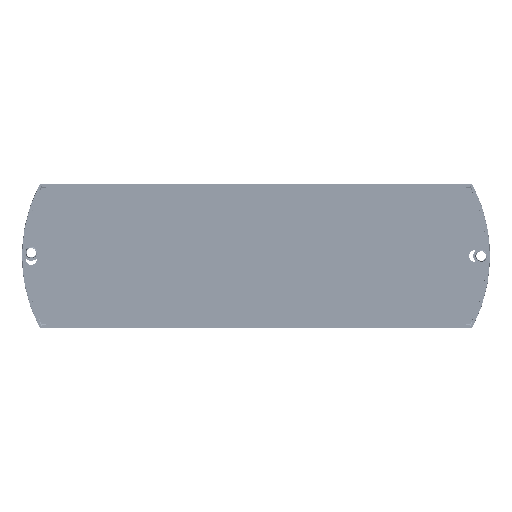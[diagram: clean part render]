
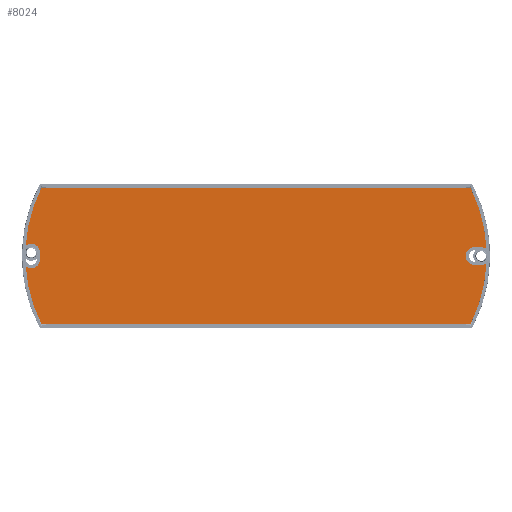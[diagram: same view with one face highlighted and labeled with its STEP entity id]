
A CAD part, front view. The second image highlights one B-rep face of the part: STEP entity #8024.
In plain terms, the highlighted planar face has unit normal (0, -1, 0).
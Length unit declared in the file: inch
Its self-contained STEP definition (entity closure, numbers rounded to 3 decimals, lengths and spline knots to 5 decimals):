
#1642 = CARTESIAN_POINT ( 'NONE',  ( 6.76296, 4.23265, 6.35857 ) ) ;
#2948 = AXIS2_PLACEMENT_3D ( 'NONE', #206367, #471037, #588586 ) ;
#5777 = DIRECTION ( 'NONE',  ( 0., 0., -1. ) ) ;
#8024 = ADVANCED_FACE ( 'NONE', ( #80852 ), #765432, .T. ) ;
#10196 = CIRCLE ( 'NONE', #263776, 0.15748 ) ;
#10587 = AXIS2_PLACEMENT_3D ( 'NONE', #375703, #113905, #122145 ) ;
#18837 = AXIS2_PLACEMENT_3D ( 'NONE', #772406, #78059, #5777 ) ;
#23679 = CARTESIAN_POINT ( 'NONE',  ( 6.97667, 4.23265, 6.23342 ) ) ;
#29732 = EDGE_CURVE ( 'NONE', #812791, #422036, #793014, .T. ) ;
#30182 = VERTEX_POINT ( 'NONE', #803267 ) ;
#38617 = ORIENTED_EDGE ( 'NONE', *, *, #29732, .T. ) ;
#42097 = CARTESIAN_POINT ( 'NONE',  ( 6.76296, 4.23265, 6.51605 ) ) ;
#49857 = ORIENTED_EDGE ( 'NONE', *, *, #421302, .F. ) ;
#50257 = VECTOR ( 'NONE', #361881, 39.37008 ) ;
#62240 = CARTESIAN_POINT ( 'NONE',  ( 6.68761, 4.23265, 7.57904 ) ) ;
#66665 = DIRECTION ( 'NONE',  ( 0., 0., -1. ) ) ;
#67063 = AXIS2_PLACEMENT_3D ( 'NONE', #443744, #825893, #817610 ) ;
#67772 = AXIS2_PLACEMENT_3D ( 'NONE', #690685, #495394, #300345 ) ;
#69118 = CARTESIAN_POINT ( 'NONE',  ( 6.76296, 4.23265, 6.51605 ) ) ;
#78059 = DIRECTION ( 'NONE',  ( 0., 1., 0. ) ) ;
#80852 = FACE_OUTER_BOUND ( 'NONE', #709192, .T. ) ;
#81485 = ORIENTED_EDGE ( 'NONE', *, *, #412271, .F. ) ;
#94135 = CARTESIAN_POINT ( 'NONE',  ( 6.68761, 4.23265, 5.1381 ) ) ;
#109925 = DIRECTION ( 'NONE',  ( 0., 0., -1. ) ) ;
#112443 = CIRCLE ( 'NONE', #802953, 2.69685 ) ;
#113905 = DIRECTION ( 'NONE',  ( 0., 1., 0. ) ) ;
#122145 = DIRECTION ( 'NONE',  ( 0., 0., -1. ) ) ;
#129642 = DIRECTION ( 'NONE',  ( 0., 0., -1. ) ) ;
#137226 = ORIENTED_EDGE ( 'NONE', *, *, #783078, .F. ) ;
#142491 = AXIS2_PLACEMENT_3D ( 'NONE', #371728, #614817, #109925 ) ;
#155147 = CIRCLE ( 'NONE', #10587, 2.69685 ) ;
#165726 = LINE ( 'NONE', #333646, #295414 ) ;
#169795 = DIRECTION ( 'NONE',  ( 0., 1., 0. ) ) ;
#172532 = CARTESIAN_POINT ( 'NONE',  ( 6.88107, 4.23265, 6.35857 ) ) ;
#177237 = DIRECTION ( 'NONE',  ( 0., 1., 0. ) ) ;
#188923 = CIRCLE ( 'NONE', #2948, 2.69685 ) ;
#200001 = EDGE_CURVE ( 'NONE', #30182, #764275, #10196, .T. ) ;
#206367 = CARTESIAN_POINT ( 'NONE',  ( 1.44792, 4.23265, 6.35857 ) ) ;
#228720 = CIRCLE ( 'NONE', #67063, 2.69685 ) ;
#248070 = CARTESIAN_POINT ( 'NONE',  ( 1.44792, 4.23265, 6.35857 ) ) ;
#258937 = DIRECTION ( 'NONE',  ( 0., 0., 1. ) ) ;
#259862 = LINE ( 'NONE', #303279, #50257 ) ;
#261240 = ORIENTED_EDGE ( 'NONE', *, *, #264109, .F. ) ;
#263776 = AXIS2_PLACEMENT_3D ( 'NONE', #172532, #169795, #353779 ) ;
#264109 = EDGE_CURVE ( 'NONE', #756742, #422036, #188923, .T. ) ;
#264799 = CIRCLE ( 'NONE', #18837, 0.15748 ) ;
#269362 = EDGE_CURVE ( 'NONE', #276903, #588160, #678694, .T. ) ;
#276903 = VERTEX_POINT ( 'NONE', #681590 ) ;
#277122 = DIRECTION ( 'NONE',  ( 0., -1., 0. ) ) ;
#289153 = AXIS2_PLACEMENT_3D ( 'NONE', #1642, #511751, #129642 ) ;
#295414 = VECTOR ( 'NONE', #403211, 39.37008 ) ;
#296270 = CARTESIAN_POINT ( 'NONE',  ( -0.98507, 4.23265, 6.29951 ) ) ;
#300345 = DIRECTION ( 'NONE',  ( 0., 0., -1. ) ) ;
#303279 = CARTESIAN_POINT ( 'NONE',  ( 6.88107, 4.23265, 6.20109 ) ) ;
#306668 = ORIENTED_EDGE ( 'NONE', *, *, #549971, .F. ) ;
#333646 = CARTESIAN_POINT ( 'NONE',  ( -0.95696, 4.23265, 5.1381 ) ) ;
#334476 = VERTEX_POINT ( 'NONE', #94135 ) ;
#337732 = VERTEX_POINT ( 'NONE', #799683 ) ;
#348900 = LINE ( 'NONE', #42097, #777905 ) ;
#353779 = DIRECTION ( 'NONE',  ( 0., 0., -1. ) ) ;
#361881 = DIRECTION ( 'NONE',  ( 1., 0., 0. ) ) ;
#364023 = CARTESIAN_POINT ( 'NONE',  ( -1.14255, 4.23265, 6.29951 ) ) ;
#369123 = VERTEX_POINT ( 'NONE', #62240 ) ;
#371728 = CARTESIAN_POINT ( 'NONE',  ( -1.14255, 4.23265, 6.29951 ) ) ;
#374652 = ORIENTED_EDGE ( 'NONE', *, *, #690208, .F. ) ;
#375703 = CARTESIAN_POINT ( 'NONE',  ( 4.28273, 4.23265, 6.35857 ) ) ;
#378929 = DIRECTION ( 'NONE',  ( -1., 0., 0. ) ) ;
#383612 = CARTESIAN_POINT ( 'NONE',  ( -0.98507, 4.23265, 6.41762 ) ) ;
#403211 = DIRECTION ( 'NONE',  ( -1., 0., 0. ) ) ;
#407219 = ORIENTED_EDGE ( 'NONE', *, *, #269362, .T. ) ;
#412271 = EDGE_CURVE ( 'NONE', #583797, #369123, #632158, .T. ) ;
#412672 = CARTESIAN_POINT ( 'NONE',  ( -1.24288, 4.23265, 6.17813 ) ) ;
#421302 = EDGE_CURVE ( 'NONE', #527662, #583797, #112443, .T. ) ;
#422036 = VERTEX_POINT ( 'NONE', #412672 ) ;
#423395 = EDGE_CURVE ( 'NONE', #527662, #731975, #264799, .T. ) ;
#440839 = CIRCLE ( 'NONE', #67772, 0.15748 ) ;
#443744 = CARTESIAN_POINT ( 'NONE',  ( 4.28273, 4.23265, 6.35857 ) ) ;
#451166 = CARTESIAN_POINT ( 'NONE',  ( -0.98507, 4.23265, 6.41762 ) ) ;
#465825 = VERTEX_POINT ( 'NONE', #23679 ) ;
#471037 = DIRECTION ( 'NONE',  ( 0., 1., 0. ) ) ;
#472942 = AXIS2_PLACEMENT_3D ( 'NONE', #364023, #177237, #626269 ) ;
#483138 = CARTESIAN_POINT ( 'NONE',  ( -1.14255, 4.23265, 6.14203 ) ) ;
#495394 = DIRECTION ( 'NONE',  ( 0., 1., 0. ) ) ;
#511751 = DIRECTION ( 'NONE',  ( 0., 1., 0. ) ) ;
#514522 = ORIENTED_EDGE ( 'NONE', *, *, #727551, .F. ) ;
#527662 = VERTEX_POINT ( 'NONE', #689142 ) ;
#549971 = EDGE_CURVE ( 'NONE', #276903, #337732, #259862, .T. ) ;
#554872 = ORIENTED_EDGE ( 'NONE', *, *, #200001, .T. ) ;
#555857 = CARTESIAN_POINT ( 'NONE',  ( -0.95696, 4.23265, 5.1381 ) ) ;
#582113 = VECTOR ( 'NONE', #258937, 39.37008 ) ;
#583797 = VERTEX_POINT ( 'NONE', #781262 ) ;
#586908 = CARTESIAN_POINT ( 'NONE',  ( 6.68761, 4.23265, 7.57904 ) ) ;
#588160 = VERTEX_POINT ( 'NONE', #69118 ) ;
#588586 = DIRECTION ( 'NONE',  ( 0., 0., -1. ) ) ;
#591841 = EDGE_CURVE ( 'NONE', #592342, #812791, #679157, .T. ) ;
#592342 = VERTEX_POINT ( 'NONE', #296270 ) ;
#595147 = DIRECTION ( 'NONE',  ( 0., 0., 1. ) ) ;
#611949 = ORIENTED_EDGE ( 'NONE', *, *, #652905, .F. ) ;
#614817 = DIRECTION ( 'NONE',  ( 0., 1., 0. ) ) ;
#617372 = ORIENTED_EDGE ( 'NONE', *, *, #591841, .T. ) ;
#626269 = DIRECTION ( 'NONE',  ( 0., 0., -1. ) ) ;
#632158 = LINE ( 'NONE', #586908, #781708 ) ;
#650876 = ORIENTED_EDGE ( 'NONE', *, *, #766579, .F. ) ;
#650937 = CARTESIAN_POINT ( 'NONE',  ( 2.90411, 4.23265, 6.35857 ) ) ;
#652905 = EDGE_CURVE ( 'NONE', #369123, #764275, #228720, .T. ) ;
#678694 = CIRCLE ( 'NONE', #289153, 0.15748 ) ;
#679157 = CIRCLE ( 'NONE', #472942, 0.15748 ) ;
#681590 = CARTESIAN_POINT ( 'NONE',  ( 6.76296, 4.23265, 6.20109 ) ) ;
#689142 = CARTESIAN_POINT ( 'NONE',  ( -1.24288, 4.23265, 6.539 ) ) ;
#690208 = EDGE_CURVE ( 'NONE', #334476, #756742, #165726, .T. ) ;
#690685 = CARTESIAN_POINT ( 'NONE',  ( 6.88107, 4.23265, 6.35857 ) ) ;
#709192 = EDGE_LOOP ( 'NONE', ( #306668, #407219, #514522, #554872, #611949, #81485, #49857, #811082, #650876, #617372, #38617, #261240, #374652, #137226, #807539 ) ) ;
#727551 = EDGE_CURVE ( 'NONE', #30182, #588160, #348900, .T. ) ;
#731975 = VERTEX_POINT ( 'NONE', #383612 ) ;
#747521 = EDGE_CURVE ( 'NONE', #465825, #337732, #440839, .T. ) ;
#756742 = VERTEX_POINT ( 'NONE', #555857 ) ;
#762077 = LINE ( 'NONE', #451166, #582113 ) ;
#763801 = DIRECTION ( 'NONE',  ( 0., 1., 0. ) ) ;
#764275 = VERTEX_POINT ( 'NONE', #797584 ) ;
#765432 = PLANE ( 'NONE',  #771659 ) ;
#766579 = EDGE_CURVE ( 'NONE', #592342, #731975, #762077, .T. ) ;
#771659 = AXIS2_PLACEMENT_3D ( 'NONE', #650937, #277122, #595147 ) ;
#772406 = CARTESIAN_POINT ( 'NONE',  ( -1.14255, 4.23265, 6.41762 ) ) ;
#773582 = DIRECTION ( 'NONE',  ( 1., 0., 0. ) ) ;
#777905 = VECTOR ( 'NONE', #378929, 39.37008 ) ;
#781262 = CARTESIAN_POINT ( 'NONE',  ( -0.95696, 4.23265, 7.57904 ) ) ;
#781708 = VECTOR ( 'NONE', #773582, 39.37008 ) ;
#783078 = EDGE_CURVE ( 'NONE', #465825, #334476, #155147, .T. ) ;
#793014 = CIRCLE ( 'NONE', #142491, 0.15748 ) ;
#797584 = CARTESIAN_POINT ( 'NONE',  ( 6.97667, 4.23265, 6.48371 ) ) ;
#799683 = CARTESIAN_POINT ( 'NONE',  ( 6.88107, 4.23265, 6.20109 ) ) ;
#802953 = AXIS2_PLACEMENT_3D ( 'NONE', #248070, #763801, #66665 ) ;
#803267 = CARTESIAN_POINT ( 'NONE',  ( 6.88107, 4.23265, 6.51605 ) ) ;
#807539 = ORIENTED_EDGE ( 'NONE', *, *, #747521, .T. ) ;
#811082 = ORIENTED_EDGE ( 'NONE', *, *, #423395, .T. ) ;
#812791 = VERTEX_POINT ( 'NONE', #483138 ) ;
#817610 = DIRECTION ( 'NONE',  ( 0., 0., -1. ) ) ;
#825893 = DIRECTION ( 'NONE',  ( 0., 1., 0. ) ) ;
